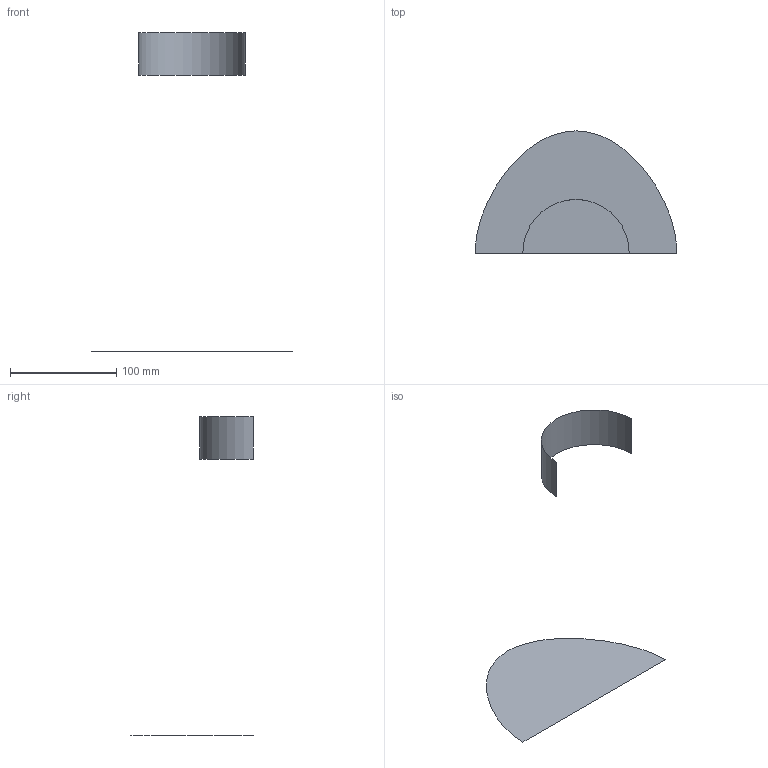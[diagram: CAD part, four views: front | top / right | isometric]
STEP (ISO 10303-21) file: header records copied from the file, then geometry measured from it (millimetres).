
FILE_DESCRIPTION(('CATIA V5 STEP Exchange'),'2;1');
FILE_NAME('C:\_Andres\UNIVERSIDAD\IQS\ASIGNATURAS\DAO\Controles\1617\c1\1original\Bosch_Dalmau_Ej00-base_v5.stp','2017-02-06T16:27:33+00:00',('none'),('none'),'CATIA Version 5-6 Release 2014 SP1 HF18','CATIA V5 STEP AP203','none');
FILE_SCHEMA(('CONFIG_CONTROL_DESIGN'));
Length unit declared in the file: millimetre
Products named in the file (1): Bosch_Dalmau_Ej00-base_v5
Bounding box: 190 x 115 x 300 mm (x, y, z)
Surface area: 22753 mm2 (no closed solid volume)
Topology: 0 solids, 2 shells, 2 faces, 16 edges, 26 vertices
Faces by surface type: cylinder 1, plane 1
Entity records: 230 total; most frequent: CARTESIAN_POINT 78, DIRECTION 16, COMPOSITE_CURVE_SEGMENT 9, TRIMMED_CURVE 9, AXIS2_PLACEMENT_3D 8, COMPOSITE_CURVE 7, ORIENTED_EDGE 7, EDGE_CURVE 7
